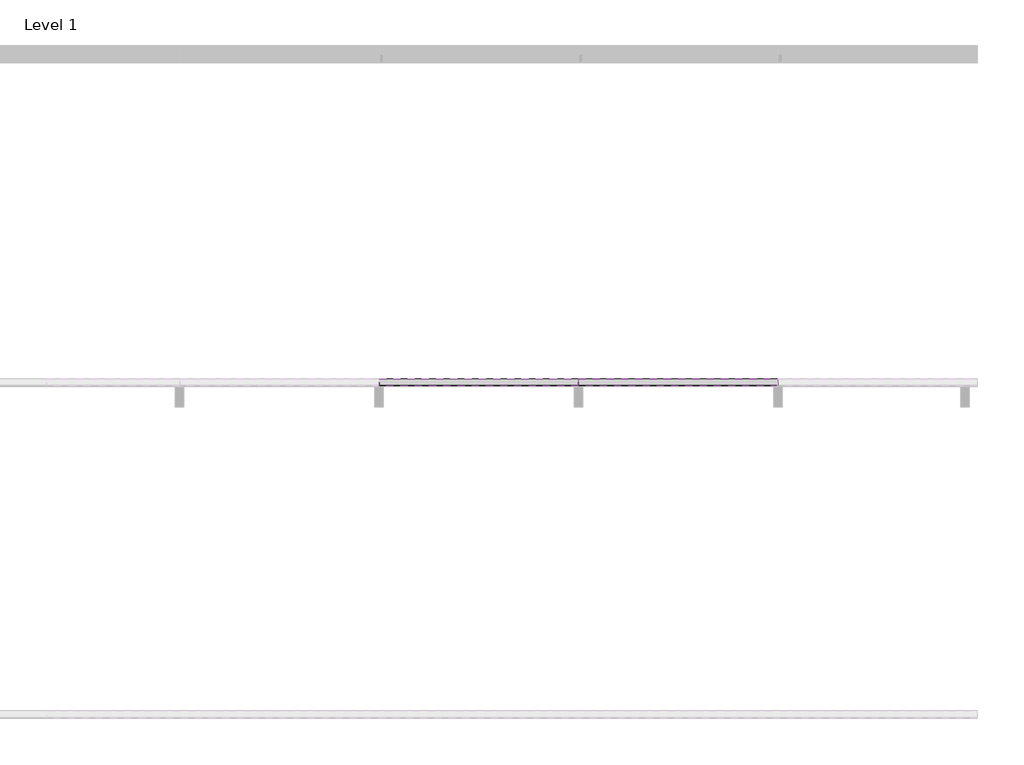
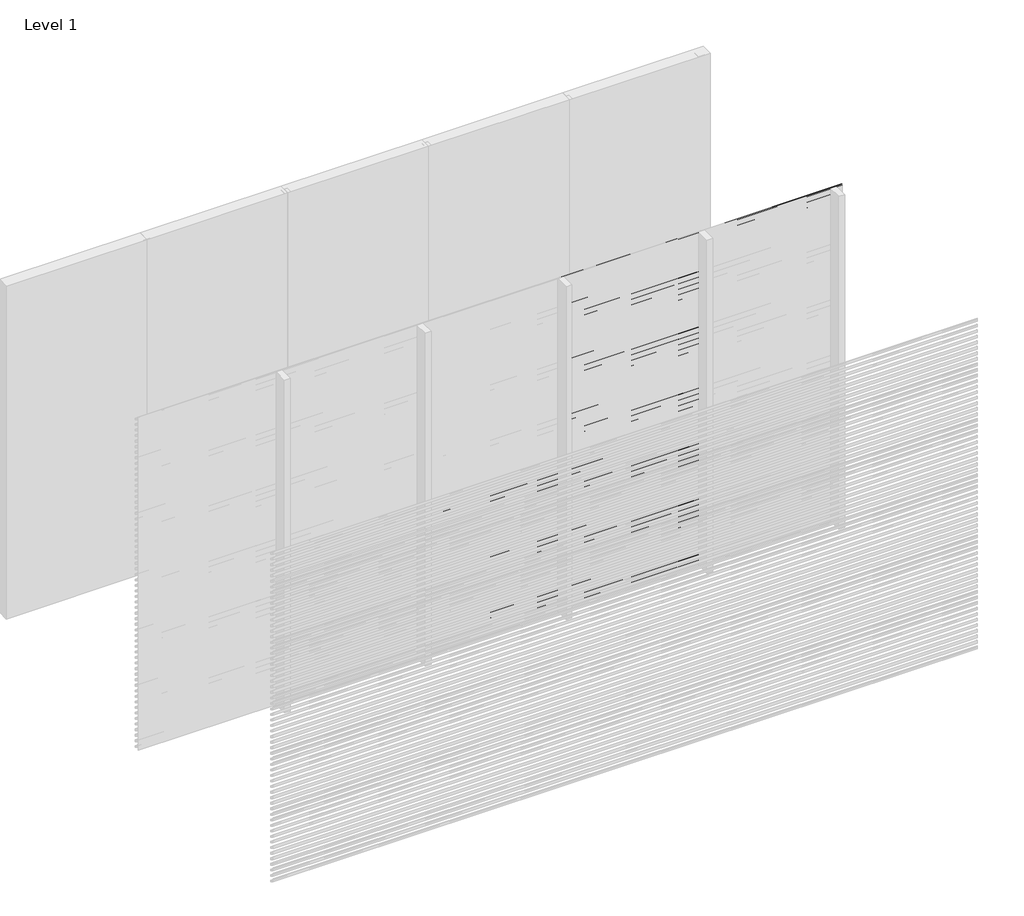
# One storey, part 4 of 16: 92 proxies.
"""IFC4 building model written with IfcOpenShell, lengths in millimetres."""

from ifc_helpers import new_model, si_unit, frame, origin, place, context, project, spatial, polyline, outline, extrude, element, save

model = new_model("IFC4")

# Units and contexts
model_context = context("Model", 3, world=origin())
ifc_project = project(units=[si_unit("LENGTHUNIT", "METRE", prefix="MILLI")], contexts=[model_context])

# Site, building, storey
site = spatial("IfcSite", under=ifc_project)
building = spatial("IfcBuilding", under=site)
storey = spatial("IfcBuildingStorey", under=building, Name="Level 1", Elevation=0.0)

# Proxies
placement = place(None, origin())
element("IfcBuildingElementProxy", 1, Name="Wall Sweeps", at=placement, inside=storey, context=model_context, shape_type="SweptSolid", body=[
    extrude(outline(polyline([(-17995.0, 3000.0), (-17995.0, 2989.6352854), (-17954.0, 2965.0), (-17954.0, 2950.0), (-17997.0, 2975.8370066), (-17997.0, 3000.0), (-17995.0, 3000.0)])), frame((4799.9999998, 0.0, 0.0), z_axis=(1.0, 0.0, 0.0), x_axis=(0.0, 1.0, 0.0)), (0.0, 0.0, 1.0), 1200.0000002),
])
element("IfcBuildingElementProxy", 2, Name="Wall Sweeps", at=placement, inside=storey, context=model_context, shape_type="SweptSolid", body=[
    extrude(outline(polyline([(-17995.0, 2950.0), (-17995.0, 2939.6352854), (-17954.0, 2915.0), (-17954.0, 2900.0), (-17997.0, 2925.8370066), (-17997.0, 2950.0), (-17995.0, 2950.0)])), frame((4799.9999998, 0.0, 0.0), z_axis=(1.0, 0.0, 0.0), x_axis=(0.0, 1.0, 0.0)), (0.0, 0.0, 1.0), 1200.0000002),
])
element("IfcBuildingElementProxy", 3, Name="Wall Sweeps", at=placement, inside=storey, context=model_context, shape_type="SweptSolid", body=[
    extrude(outline(polyline([(-17995.0, 2900.0), (-17995.0, 2889.6352854), (-17954.0, 2865.0), (-17954.0, 2850.0), (-17997.0, 2875.8370066), (-17997.0, 2900.0), (-17995.0, 2900.0)])), frame((4799.9999998, 0.0, 0.0), z_axis=(1.0, 0.0, 0.0), x_axis=(0.0, 1.0, 0.0)), (0.0, 0.0, 1.0), 1200.0000002),
])
element("IfcBuildingElementProxy", 4, Name="Wall Sweeps", at=placement, inside=storey, context=model_context, shape_type="SweptSolid", body=[
    extrude(outline(polyline([(-17995.0, 2850.0), (-17995.0, 2839.6352854), (-17954.0, 2815.0), (-17954.0, 2800.0), (-17997.0, 2825.8370066), (-17997.0, 2850.0), (-17995.0, 2850.0)])), frame((4799.9999998, 0.0, 0.0), z_axis=(1.0, 0.0, 0.0), x_axis=(0.0, 1.0, 0.0)), (0.0, 0.0, 1.0), 1200.0000002),
])
element("IfcBuildingElementProxy", 5, Name="Wall Sweeps", at=placement, inside=storey, context=model_context, shape_type="SweptSolid", body=[
    extrude(outline(polyline([(-17995.0, 3000.0), (-17995.0, 2989.6352854), (-17954.0, 2965.0), (-17954.0, 2950.0), (-17997.0, 2975.8370066), (-17997.0, 3000.0), (-17995.0, 3000.0)])), frame((3599.9999999, 0.0, 0.0), z_axis=(1.0, 0.0, 0.0), x_axis=(0.0, 1.0, 0.0)), (0.0, 0.0, 1.0), 1199.9999999),
])
element("IfcBuildingElementProxy", 6, Name="Wall Sweeps", at=placement, inside=storey, context=model_context, shape_type="SweptSolid", body=[
    extrude(outline(polyline([(-17995.0, 2950.0), (-17995.0, 2939.6352854), (-17954.0, 2915.0), (-17954.0, 2900.0), (-17997.0, 2925.8370066), (-17997.0, 2950.0), (-17995.0, 2950.0)])), frame((3599.9999999, 0.0, 0.0), z_axis=(1.0, 0.0, 0.0), x_axis=(0.0, 1.0, 0.0)), (0.0, 0.0, 1.0), 1199.9999999),
])
element("IfcBuildingElementProxy", 7, Name="Wall Sweeps", at=placement, inside=storey, context=model_context, shape_type="SweptSolid", body=[
    extrude(outline(polyline([(-17995.0, 2900.0), (-17995.0, 2889.6352854), (-17954.0, 2865.0), (-17954.0, 2850.0), (-17997.0, 2875.8370066), (-17997.0, 2900.0), (-17995.0, 2900.0)])), frame((3599.9999999, 0.0, 0.0), z_axis=(1.0, 0.0, 0.0), x_axis=(0.0, 1.0, 0.0)), (0.0, 0.0, 1.0), 1199.9999999),
])
element("IfcBuildingElementProxy", 8, Name="Wall Sweeps", at=placement, inside=storey, context=model_context, shape_type="SweptSolid", body=[
    extrude(outline(polyline([(-17995.0, 2850.0), (-17995.0, 2839.6352854), (-17954.0, 2815.0), (-17954.0, 2800.0), (-17997.0, 2825.8370066), (-17997.0, 2850.0), (-17995.0, 2850.0)])), frame((3599.9999999, 0.0, 0.0), z_axis=(1.0, 0.0, 0.0), x_axis=(0.0, 1.0, 0.0)), (0.0, 0.0, 1.0), 1199.9999999),
])
element("IfcBuildingElementProxy", 9, Name="Wall Sweeps", at=placement, inside=storey, context=model_context, shape_type="SweptSolid", body=[
    extrude(outline(polyline([(-17995.0, 2800.0), (-17995.0, 2789.6352854), (-17954.0, 2765.0), (-17954.0, 2750.0), (-17997.0, 2775.8370066), (-17997.0, 2800.0), (-17995.0, 2800.0)])), frame((3599.9999999, 0.0, 0.0), z_axis=(1.0, 0.0, 0.0), x_axis=(0.0, 1.0, 0.0)), (0.0, 0.0, 1.0), 1199.9999999),
])
element("IfcBuildingElementProxy", 10, Name="Wall Sweeps", at=placement, inside=storey, context=model_context, shape_type="SweptSolid", body=[
    extrude(outline(polyline([(-17995.0, 2750.0), (-17995.0, 2739.6352854), (-17954.0, 2715.0), (-17954.0, 2700.0), (-17997.0, 2725.8370066), (-17997.0, 2750.0), (-17995.0, 2750.0)])), frame((3599.9999999, 0.0, 0.0), z_axis=(1.0, 0.0, 0.0), x_axis=(0.0, 1.0, 0.0)), (0.0, 0.0, 1.0), 1199.9999999),
])
element("IfcBuildingElementProxy", 11, Name="Wall Sweeps", at=placement, inside=storey, context=model_context, shape_type="SweptSolid", body=[
    extrude(outline(polyline([(-17995.0, 2700.0), (-17995.0, 2689.6352854), (-17954.0, 2665.0), (-17954.0, 2650.0), (-17997.0, 2675.8370066), (-17997.0, 2700.0), (-17995.0, 2700.0)])), frame((3599.9999999, 0.0, 0.0), z_axis=(1.0, 0.0, 0.0), x_axis=(0.0, 1.0, 0.0)), (0.0, 0.0, 1.0), 1199.9999999),
])
element("IfcBuildingElementProxy", 12, Name="Wall Sweeps", at=placement, inside=storey, context=model_context, shape_type="SweptSolid", body=[
    extrude(outline(polyline([(-17995.0, 2650.0), (-17995.0, 2639.6352854), (-17954.0, 2615.0), (-17954.0, 2600.0), (-17997.0, 2625.8370066), (-17997.0, 2650.0), (-17995.0, 2650.0)])), frame((3599.9999999, 0.0, 0.0), z_axis=(1.0, 0.0, 0.0), x_axis=(0.0, 1.0, 0.0)), (0.0, 0.0, 1.0), 1199.9999999),
])
element("IfcBuildingElementProxy", 13, Name="Wall Sweeps", at=placement, inside=storey, context=model_context, shape_type="SweptSolid", body=[
    extrude(outline(polyline([(-17995.0, 2600.0), (-17995.0, 2589.6352854), (-17954.0, 2565.0), (-17954.0, 2550.0), (-17997.0, 2575.8370066), (-17997.0, 2600.0), (-17995.0, 2600.0)])), frame((3599.9999999, 0.0, 0.0), z_axis=(1.0, 0.0, 0.0), x_axis=(0.0, 1.0, 0.0)), (0.0, 0.0, 1.0), 1199.9999999),
])
element("IfcBuildingElementProxy", 14, Name="Wall Sweeps", at=placement, inside=storey, context=model_context, shape_type="SweptSolid", body=[
    extrude(outline(polyline([(-17995.0, 2550.0), (-17995.0, 2539.6352854), (-17954.0, 2515.0), (-17954.0, 2500.0), (-17997.0, 2525.8370066), (-17997.0, 2550.0), (-17995.0, 2550.0)])), frame((3599.9999999, 0.0, 0.0), z_axis=(1.0, 0.0, 0.0), x_axis=(0.0, 1.0, 0.0)), (0.0, 0.0, 1.0), 1199.9999999),
])
element("IfcBuildingElementProxy", 15, Name="Wall Sweeps", at=placement, inside=storey, context=model_context, shape_type="SweptSolid", body=[
    extrude(outline(polyline([(-17995.0, 2500.0), (-17995.0, 2489.6352854), (-17954.0, 2465.0), (-17954.0, 2450.0), (-17997.0, 2475.8370066), (-17997.0, 2500.0), (-17995.0, 2500.0)])), frame((3599.9999999, 0.0, 0.0), z_axis=(1.0, 0.0, 0.0), x_axis=(0.0, 1.0, 0.0)), (0.0, 0.0, 1.0), 1199.9999999),
])
element("IfcBuildingElementProxy", 16, Name="Wall Sweeps", at=placement, inside=storey, context=model_context, shape_type="SweptSolid", body=[
    extrude(outline(polyline([(-17995.0, 2450.0), (-17995.0, 2439.6352854), (-17954.0, 2415.0), (-17954.0, 2400.0), (-17997.0, 2425.8370066), (-17997.0, 2450.0), (-17995.0, 2450.0)])), frame((3599.9999999, 0.0, 0.0), z_axis=(1.0, 0.0, 0.0), x_axis=(0.0, 1.0, 0.0)), (0.0, 0.0, 1.0), 1199.9999999),
])
element("IfcBuildingElementProxy", 17, Name="Wall Sweeps", at=placement, inside=storey, context=model_context, shape_type="SweptSolid", body=[
    extrude(outline(polyline([(-17995.0, 2400.0), (-17995.0, 2389.6352854), (-17954.0, 2365.0), (-17954.0, 2350.0), (-17997.0, 2375.8370066), (-17997.0, 2400.0), (-17995.0, 2400.0)])), frame((3599.9999999, 0.0, 0.0), z_axis=(1.0, 0.0, 0.0), x_axis=(0.0, 1.0, 0.0)), (0.0, 0.0, 1.0), 1199.9999999),
])
element("IfcBuildingElementProxy", 18, Name="Wall Sweeps", at=placement, inside=storey, context=model_context, shape_type="SweptSolid", body=[
    extrude(outline(polyline([(-17995.0, 2350.0), (-17995.0, 2339.6352854), (-17954.0, 2315.0), (-17954.0, 2300.0), (-17997.0, 2325.8370066), (-17997.0, 2350.0), (-17995.0, 2350.0)])), frame((3599.9999999, 0.0, 0.0), z_axis=(1.0, 0.0, 0.0), x_axis=(0.0, 1.0, 0.0)), (0.0, 0.0, 1.0), 1199.9999999),
])
element("IfcBuildingElementProxy", 19, Name="Wall Sweeps", at=placement, inside=storey, context=model_context, shape_type="SweptSolid", body=[
    extrude(outline(polyline([(-17995.0, 2300.0), (-17995.0, 2289.6352854), (-17954.0, 2265.0), (-17954.0, 2250.0), (-17997.0, 2275.8370066), (-17997.0, 2300.0), (-17995.0, 2300.0)])), frame((3599.9999999, 0.0, 0.0), z_axis=(1.0, 0.0, 0.0), x_axis=(0.0, 1.0, 0.0)), (0.0, 0.0, 1.0), 1199.9999999),
])
element("IfcBuildingElementProxy", 20, Name="Wall Sweeps", at=placement, inside=storey, context=model_context, shape_type="SweptSolid", body=[
    extrude(outline(polyline([(-17995.0, 2250.0), (-17995.0, 2239.6352854), (-17954.0, 2215.0), (-17954.0, 2200.0), (-17997.0, 2225.8370066), (-17997.0, 2250.0), (-17995.0, 2250.0)])), frame((3599.9999999, 0.0, 0.0), z_axis=(1.0, 0.0, 0.0), x_axis=(0.0, 1.0, 0.0)), (0.0, 0.0, 1.0), 1199.9999999),
])
element("IfcBuildingElementProxy", 21, Name="Wall Sweeps", at=placement, inside=storey, context=model_context, shape_type="SweptSolid", body=[
    extrude(outline(polyline([(-17995.0, 2200.0), (-17995.0, 2189.6352854), (-17954.0, 2165.0), (-17954.0, 2150.0), (-17997.0, 2175.8370066), (-17997.0, 2200.0), (-17995.0, 2200.0)])), frame((3599.9999999, 0.0, 0.0), z_axis=(1.0, 0.0, 0.0), x_axis=(0.0, 1.0, 0.0)), (0.0, 0.0, 1.0), 1199.9999999),
])
element("IfcBuildingElementProxy", 22, Name="Wall Sweeps", at=placement, inside=storey, context=model_context, shape_type="SweptSolid", body=[
    extrude(outline(polyline([(-17995.0, 2150.0), (-17995.0, 2139.6352854), (-17954.0, 2115.0), (-17954.0, 2100.0), (-17997.0, 2125.8370066), (-17997.0, 2150.0), (-17995.0, 2150.0)])), frame((3599.9999999, 0.0, 0.0), z_axis=(1.0, 0.0, 0.0), x_axis=(0.0, 1.0, 0.0)), (0.0, 0.0, 1.0), 1199.9999999),
])
element("IfcBuildingElementProxy", 23, Name="Wall Sweeps", at=placement, inside=storey, context=model_context, shape_type="SweptSolid", body=[
    extrude(outline(polyline([(-17995.0, 2100.0), (-17995.0, 2089.6352854), (-17954.0, 2065.0), (-17954.0, 2050.0), (-17997.0, 2075.8370066), (-17997.0, 2100.0), (-17995.0, 2100.0)])), frame((3599.9999999, 0.0, 0.0), z_axis=(1.0, 0.0, 0.0), x_axis=(0.0, 1.0, 0.0)), (0.0, 0.0, 1.0), 1199.9999999),
])
element("IfcBuildingElementProxy", 24, Name="Wall Sweeps", at=placement, inside=storey, context=model_context, shape_type="SweptSolid", body=[
    extrude(outline(polyline([(-17995.0, 2050.0), (-17995.0, 2039.6352854), (-17954.0, 2015.0), (-17954.0, 2000.0), (-17997.0, 2025.8370066), (-17997.0, 2050.0), (-17995.0, 2050.0)])), frame((3599.9999999, 0.0, 0.0), z_axis=(1.0, 0.0, 0.0), x_axis=(0.0, 1.0, 0.0)), (0.0, 0.0, 1.0), 1199.9999999),
])
element("IfcBuildingElementProxy", 25, Name="Wall Sweeps", at=placement, inside=storey, context=model_context, shape_type="SweptSolid", body=[
    extrude(outline(polyline([(-17995.0, 2000.0), (-17995.0, 1989.6352854), (-17954.0, 1965.0), (-17954.0, 1950.0), (-17997.0, 1975.8370066), (-17997.0, 2000.0), (-17995.0, 2000.0)])), frame((3599.9999999, 0.0, 0.0), z_axis=(1.0, 0.0, 0.0), x_axis=(0.0, 1.0, 0.0)), (0.0, 0.0, 1.0), 1199.9999999),
])
element("IfcBuildingElementProxy", 26, Name="Wall Sweeps", at=placement, inside=storey, context=model_context, shape_type="SweptSolid", body=[
    extrude(outline(polyline([(-17995.0, 1950.0), (-17995.0, 1939.6352854), (-17954.0, 1915.0), (-17954.0, 1900.0), (-17997.0, 1925.8370066), (-17997.0, 1950.0), (-17995.0, 1950.0)])), frame((3599.9999999, 0.0, 0.0), z_axis=(1.0, 0.0, 0.0), x_axis=(0.0, 1.0, 0.0)), (0.0, 0.0, 1.0), 1199.9999999),
])
element("IfcBuildingElementProxy", 27, Name="Wall Sweeps", at=placement, inside=storey, context=model_context, shape_type="SweptSolid", body=[
    extrude(outline(polyline([(-17995.0, 1900.0), (-17995.0, 1889.6352854), (-17954.0, 1865.0), (-17954.0, 1850.0), (-17997.0, 1875.8370066), (-17997.0, 1900.0), (-17995.0, 1900.0)])), frame((3599.9999999, 0.0, 0.0), z_axis=(1.0, 0.0, 0.0), x_axis=(0.0, 1.0, 0.0)), (0.0, 0.0, 1.0), 1199.9999999),
])
element("IfcBuildingElementProxy", 28, Name="Wall Sweeps", at=placement, inside=storey, context=model_context, shape_type="SweptSolid", body=[
    extrude(outline(polyline([(-17995.0, 1850.0), (-17995.0, 1839.6352854), (-17954.0, 1815.0), (-17954.0, 1800.0), (-17997.0, 1825.8370066), (-17997.0, 1850.0), (-17995.0, 1850.0)])), frame((3599.9999999, 0.0, 0.0), z_axis=(1.0, 0.0, 0.0), x_axis=(0.0, 1.0, 0.0)), (0.0, 0.0, 1.0), 1199.9999999),
])
element("IfcBuildingElementProxy", 29, Name="Wall Sweeps", at=placement, inside=storey, context=model_context, shape_type="SweptSolid", body=[
    extrude(outline(polyline([(-17995.0, 1800.0), (-17995.0, 1789.6352854), (-17954.0, 1765.0), (-17954.0, 1750.0), (-17997.0, 1775.8370066), (-17997.0, 1800.0), (-17995.0, 1800.0)])), frame((3599.9999999, 0.0, 0.0), z_axis=(1.0, 0.0, 0.0), x_axis=(0.0, 1.0, 0.0)), (0.0, 0.0, 1.0), 1199.9999999),
])
element("IfcBuildingElementProxy", 30, Name="Wall Sweeps", at=placement, inside=storey, context=model_context, shape_type="SweptSolid", body=[
    extrude(outline(polyline([(-17995.0, 1750.0), (-17995.0, 1739.6352854), (-17954.0, 1715.0), (-17954.0, 1700.0), (-17997.0, 1725.8370066), (-17997.0, 1750.0), (-17995.0, 1750.0)])), frame((3599.9999999, 0.0, 0.0), z_axis=(1.0, 0.0, 0.0), x_axis=(0.0, 1.0, 0.0)), (0.0, 0.0, 1.0), 1199.9999999),
])
element("IfcBuildingElementProxy", 31, Name="Wall Sweeps", at=placement, inside=storey, context=model_context, shape_type="SweptSolid", body=[
    extrude(outline(polyline([(-17995.0, 1700.0), (-17995.0, 1689.6352854), (-17954.0, 1665.0), (-17954.0, 1650.0), (-17997.0, 1675.8370066), (-17997.0, 1700.0), (-17995.0, 1700.0)])), frame((3599.9999999, 0.0, 0.0), z_axis=(1.0, 0.0, 0.0), x_axis=(0.0, 1.0, 0.0)), (0.0, 0.0, 1.0), 1199.9999999),
])
element("IfcBuildingElementProxy", 32, Name="Wall Sweeps", at=placement, inside=storey, context=model_context, shape_type="SweptSolid", body=[
    extrude(outline(polyline([(-17995.0, 1650.0), (-17995.0, 1639.6352854), (-17954.0, 1615.0), (-17954.0, 1600.0), (-17997.0, 1625.8370066), (-17997.0, 1650.0), (-17995.0, 1650.0)])), frame((3599.9999999, 0.0, 0.0), z_axis=(1.0, 0.0, 0.0), x_axis=(0.0, 1.0, 0.0)), (0.0, 0.0, 1.0), 1199.9999999),
])
element("IfcBuildingElementProxy", 33, Name="Wall Sweeps", at=placement, inside=storey, context=model_context, shape_type="SweptSolid", body=[
    extrude(outline(polyline([(-17995.0, 1600.0), (-17995.0, 1589.6352854), (-17954.0, 1565.0), (-17954.0, 1550.0), (-17997.0, 1575.8370066), (-17997.0, 1600.0), (-17995.0, 1600.0)])), frame((3599.9999999, 0.0, 0.0), z_axis=(1.0, 0.0, 0.0), x_axis=(0.0, 1.0, 0.0)), (0.0, 0.0, 1.0), 1199.9999999),
])
element("IfcBuildingElementProxy", 34, Name="Wall Sweeps", at=placement, inside=storey, context=model_context, shape_type="SweptSolid", body=[
    extrude(outline(polyline([(-17995.0, 1550.0), (-17995.0, 1539.6352854), (-17954.0, 1515.0), (-17954.0, 1500.0), (-17997.0, 1525.8370066), (-17997.0, 1550.0), (-17995.0, 1550.0)])), frame((3599.9999999, 0.0, 0.0), z_axis=(1.0, 0.0, 0.0), x_axis=(0.0, 1.0, 0.0)), (0.0, 0.0, 1.0), 1199.9999999),
])
element("IfcBuildingElementProxy", 35, Name="Wall Sweeps", at=placement, inside=storey, context=model_context, shape_type="SweptSolid", body=[
    extrude(outline(polyline([(-17995.0, 1500.0), (-17995.0, 1489.6352854), (-17954.0, 1465.0), (-17954.0, 1450.0), (-17997.0, 1475.8370066), (-17997.0, 1500.0), (-17995.0, 1500.0)])), frame((3599.9999999, 0.0, 0.0), z_axis=(1.0, 0.0, 0.0), x_axis=(0.0, 1.0, 0.0)), (0.0, 0.0, 1.0), 1199.9999999),
])
element("IfcBuildingElementProxy", 36, Name="Wall Sweeps", at=placement, inside=storey, context=model_context, shape_type="SweptSolid", body=[
    extrude(outline(polyline([(-17995.0, 1450.0), (-17995.0, 1439.6352854), (-17954.0, 1415.0), (-17954.0, 1400.0), (-17997.0, 1425.8370066), (-17997.0, 1450.0), (-17995.0, 1450.0)])), frame((3599.9999999, 0.0, 0.0), z_axis=(1.0, 0.0, 0.0), x_axis=(0.0, 1.0, 0.0)), (0.0, 0.0, 1.0), 1199.9999999),
])
element("IfcBuildingElementProxy", 37, Name="Wall Sweeps", at=placement, inside=storey, context=model_context, shape_type="SweptSolid", body=[
    extrude(outline(polyline([(-17995.0, 1400.0), (-17995.0, 1389.6352854), (-17954.0, 1365.0), (-17954.0, 1350.0), (-17997.0, 1375.8370066), (-17997.0, 1400.0), (-17995.0, 1400.0)])), frame((3599.9999999, 0.0, 0.0), z_axis=(1.0, 0.0, 0.0), x_axis=(0.0, 1.0, 0.0)), (0.0, 0.0, 1.0), 1199.9999999),
])
element("IfcBuildingElementProxy", 38, Name="Wall Sweeps", at=placement, inside=storey, context=model_context, shape_type="SweptSolid", body=[
    extrude(outline(polyline([(-17995.0, 1350.0), (-17995.0, 1339.6352854), (-17954.0, 1315.0), (-17954.0, 1300.0), (-17997.0, 1325.8370066), (-17997.0, 1350.0), (-17995.0, 1350.0)])), frame((3599.9999999, 0.0, 0.0), z_axis=(1.0, 0.0, 0.0), x_axis=(0.0, 1.0, 0.0)), (0.0, 0.0, 1.0), 1199.9999999),
])
element("IfcBuildingElementProxy", 39, Name="Wall Sweeps", at=placement, inside=storey, context=model_context, shape_type="SweptSolid", body=[
    extrude(outline(polyline([(-17995.0, 1300.0), (-17995.0, 1289.6352854), (-17954.0, 1265.0), (-17954.0, 1250.0), (-17997.0, 1275.8370066), (-17997.0, 1300.0), (-17995.0, 1300.0)])), frame((3599.9999999, 0.0, 0.0), z_axis=(1.0, 0.0, 0.0), x_axis=(0.0, 1.0, 0.0)), (0.0, 0.0, 1.0), 1199.9999999),
])
element("IfcBuildingElementProxy", 40, Name="Wall Sweeps", at=placement, inside=storey, context=model_context, shape_type="SweptSolid", body=[
    extrude(outline(polyline([(-17995.0, 1250.0), (-17995.0, 1239.6352854), (-17954.0, 1215.0), (-17954.0, 1200.0), (-17997.0, 1225.8370066), (-17997.0, 1250.0), (-17995.0, 1250.0)])), frame((3599.9999999, 0.0, 0.0), z_axis=(1.0, 0.0, 0.0), x_axis=(0.0, 1.0, 0.0)), (0.0, 0.0, 1.0), 1199.9999999),
])
element("IfcBuildingElementProxy", 41, Name="Wall Sweeps", at=placement, inside=storey, context=model_context, shape_type="SweptSolid", body=[
    extrude(outline(polyline([(-17995.0, 1200.0), (-17995.0, 1189.6352854), (-17954.0, 1165.0), (-17954.0, 1150.0), (-17997.0, 1175.8370066), (-17997.0, 1200.0), (-17995.0, 1200.0)])), frame((3599.9999999, 0.0, 0.0), z_axis=(1.0, 0.0, 0.0), x_axis=(0.0, 1.0, 0.0)), (0.0, 0.0, 1.0), 1199.9999999),
])
element("IfcBuildingElementProxy", 42, Name="Wall Sweeps", at=placement, inside=storey, context=model_context, shape_type="SweptSolid", body=[
    extrude(outline(polyline([(-17995.0, 1150.0), (-17995.0, 1139.6352854), (-17954.0, 1115.0), (-17954.0, 1100.0), (-17997.0, 1125.8370066), (-17997.0, 1150.0), (-17995.0, 1150.0)])), frame((3599.9999999, 0.0, 0.0), z_axis=(1.0, 0.0, 0.0), x_axis=(0.0, 1.0, 0.0)), (0.0, 0.0, 1.0), 1199.9999999),
])
element("IfcBuildingElementProxy", 43, Name="Wall Sweeps", at=placement, inside=storey, context=model_context, shape_type="SweptSolid", body=[
    extrude(outline(polyline([(-17995.0, 1100.0), (-17995.0, 1089.6352854), (-17954.0, 1065.0), (-17954.0, 1050.0), (-17997.0, 1075.8370066), (-17997.0, 1100.0), (-17995.0, 1100.0)])), frame((3599.9999999, 0.0, 0.0), z_axis=(1.0, 0.0, 0.0), x_axis=(0.0, 1.0, 0.0)), (0.0, 0.0, 1.0), 1199.9999999),
])
element("IfcBuildingElementProxy", 44, Name="Wall Sweeps", at=placement, inside=storey, context=model_context, shape_type="SweptSolid", body=[
    extrude(outline(polyline([(-17995.0, 1050.0), (-17995.0, 1039.6352854), (-17954.0, 1015.0), (-17954.0, 1000.0), (-17997.0, 1025.8370066), (-17997.0, 1050.0), (-17995.0, 1050.0)])), frame((3599.9999999, 0.0, 0.0), z_axis=(1.0, 0.0, 0.0), x_axis=(0.0, 1.0, 0.0)), (0.0, 0.0, 1.0), 1199.9999999),
])
element("IfcBuildingElementProxy", 45, Name="Wall Sweeps", at=placement, inside=storey, context=model_context, shape_type="SweptSolid", body=[
    extrude(outline(polyline([(-17995.0, 1000.0), (-17995.0, 989.6352854), (-17954.0, 965.0), (-17954.0, 950.0), (-17997.0, 975.8370066), (-17997.0, 1000.0), (-17995.0, 1000.0)])), frame((3599.9999999, 0.0, 0.0), z_axis=(1.0, 0.0, 0.0), x_axis=(0.0, 1.0, 0.0)), (0.0, 0.0, 1.0), 1199.9999999),
])
element("IfcBuildingElementProxy", 46, Name="Wall Sweeps", at=placement, inside=storey, context=model_context, shape_type="SweptSolid", body=[
    extrude(outline(polyline([(-17995.0, 950.0), (-17995.0, 939.6352854), (-17954.0, 915.0), (-17954.0, 900.0), (-17997.0, 925.8370066), (-17997.0, 950.0), (-17995.0, 950.0)])), frame((3599.9999999, 0.0, 0.0), z_axis=(1.0, 0.0, 0.0), x_axis=(0.0, 1.0, 0.0)), (0.0, 0.0, 1.0), 1199.9999999),
])
element("IfcBuildingElementProxy", 47, Name="Wall Sweeps", at=placement, inside=storey, context=model_context, shape_type="SweptSolid", body=[
    extrude(outline(polyline([(-17995.0, 900.0), (-17995.0, 889.6352854), (-17954.0, 865.0), (-17954.0, 850.0), (-17997.0, 875.8370066), (-17997.0, 900.0), (-17995.0, 900.0)])), frame((3599.9999999, 0.0, 0.0), z_axis=(1.0, 0.0, 0.0), x_axis=(0.0, 1.0, 0.0)), (0.0, 0.0, 1.0), 1199.9999999),
])
element("IfcBuildingElementProxy", 48, Name="Wall Sweeps", at=placement, inside=storey, context=model_context, shape_type="SweptSolid", body=[
    extrude(outline(polyline([(-17995.0, 850.0), (-17995.0, 839.6352854), (-17954.0, 815.0), (-17954.0, 800.0), (-17997.0, 825.8370066), (-17997.0, 850.0), (-17995.0, 850.0)])), frame((3599.9999999, 0.0, 0.0), z_axis=(1.0, 0.0, 0.0), x_axis=(0.0, 1.0, 0.0)), (0.0, 0.0, 1.0), 1199.9999999),
])
element("IfcBuildingElementProxy", 49, Name="Wall Sweeps", at=placement, inside=storey, context=model_context, shape_type="SweptSolid", body=[
    extrude(outline(polyline([(-17995.0, 800.0), (-17995.0, 789.6352854), (-17954.0, 765.0), (-17954.0, 750.0), (-17997.0, 775.8370066), (-17997.0, 800.0), (-17995.0, 800.0)])), frame((3599.9999999, 0.0, 0.0), z_axis=(1.0, 0.0, 0.0), x_axis=(0.0, 1.0, 0.0)), (0.0, 0.0, 1.0), 1199.9999999),
])
element("IfcBuildingElementProxy", 50, Name="Wall Sweeps", at=placement, inside=storey, context=model_context, shape_type="SweptSolid", body=[
    extrude(outline(polyline([(-17995.0, 750.0), (-17995.0, 739.6352854), (-17954.0, 715.0), (-17954.0, 700.0), (-17997.0, 725.8370066), (-17997.0, 750.0), (-17995.0, 750.0)])), frame((3599.9999999, 0.0, 0.0), z_axis=(1.0, 0.0, 0.0), x_axis=(0.0, 1.0, 0.0)), (0.0, 0.0, 1.0), 1199.9999999),
])
element("IfcBuildingElementProxy", 51, Name="Wall Sweeps", at=placement, inside=storey, context=model_context, shape_type="SweptSolid", body=[
    extrude(outline(polyline([(-17995.0, 700.0), (-17995.0, 689.6352854), (-17954.0, 665.0), (-17954.0, 650.0), (-17997.0, 675.8370066), (-17997.0, 700.0), (-17995.0, 700.0)])), frame((3599.9999999, 0.0, 0.0), z_axis=(1.0, 0.0, 0.0), x_axis=(0.0, 1.0, 0.0)), (0.0, 0.0, 1.0), 1199.9999999),
])
element("IfcBuildingElementProxy", 52, Name="Wall Sweeps", at=placement, inside=storey, context=model_context, shape_type="SweptSolid", body=[
    extrude(outline(polyline([(-17995.0, 650.0), (-17995.0, 639.6352854), (-17954.0, 615.0), (-17954.0, 600.0), (-17997.0, 625.8370066), (-17997.0, 650.0), (-17995.0, 650.0)])), frame((3599.9999999, 0.0, 0.0), z_axis=(1.0, 0.0, 0.0), x_axis=(0.0, 1.0, 0.0)), (0.0, 0.0, 1.0), 1199.9999999),
])
element("IfcBuildingElementProxy", 53, Name="Wall Sweeps", at=placement, inside=storey, context=model_context, shape_type="SweptSolid", body=[
    extrude(outline(polyline([(-17995.0, 600.0), (-17995.0, 589.6352854), (-17954.0, 565.0), (-17954.0, 550.0), (-17997.0, 575.8370066), (-17997.0, 600.0), (-17995.0, 600.0)])), frame((3599.9999999, 0.0, 0.0), z_axis=(1.0, 0.0, 0.0), x_axis=(0.0, 1.0, 0.0)), (0.0, 0.0, 1.0), 1199.9999999),
])
element("IfcBuildingElementProxy", 54, Name="Wall Sweeps", at=placement, inside=storey, context=model_context, shape_type="SweptSolid", body=[
    extrude(outline(polyline([(-17995.0, 550.0), (-17995.0, 539.6352854), (-17954.0, 515.0), (-17954.0, 500.0), (-17997.0, 525.8370066), (-17997.0, 550.0), (-17995.0, 550.0)])), frame((3599.9999999, 0.0, 0.0), z_axis=(1.0, 0.0, 0.0), x_axis=(0.0, 1.0, 0.0)), (0.0, 0.0, 1.0), 1199.9999999),
])
element("IfcBuildingElementProxy", 55, Name="Wall Sweeps", at=placement, inside=storey, context=model_context, shape_type="SweptSolid", body=[
    extrude(outline(polyline([(-17995.0, 500.0), (-17995.0, 489.6352854), (-17954.0, 465.0), (-17954.0, 450.0), (-17997.0, 475.8370066), (-17997.0, 500.0), (-17995.0, 500.0)])), frame((3599.9999999, 0.0, 0.0), z_axis=(1.0, 0.0, 0.0), x_axis=(0.0, 1.0, 0.0)), (0.0, 0.0, 1.0), 1199.9999999),
])
element("IfcBuildingElementProxy", 56, Name="Wall Sweeps", at=placement, inside=storey, context=model_context, shape_type="SweptSolid", body=[
    extrude(outline(polyline([(-17995.0, 450.0), (-17995.0, 439.6352854), (-17954.0, 415.0), (-17954.0, 400.0), (-17997.0, 425.8370066), (-17997.0, 450.0), (-17995.0, 450.0)])), frame((3599.9999999, 0.0, 0.0), z_axis=(1.0, 0.0, 0.0), x_axis=(0.0, 1.0, 0.0)), (0.0, 0.0, 1.0), 1199.9999999),
])
element("IfcBuildingElementProxy", 57, Name="Wall Sweeps", at=placement, inside=storey, context=model_context, shape_type="SweptSolid", body=[
    extrude(outline(polyline([(-17995.0, 400.0), (-17995.0, 389.6352854), (-17954.0, 365.0), (-17954.0, 350.0), (-17997.0, 375.8370066), (-17997.0, 400.0), (-17995.0, 400.0)])), frame((3599.9999999, 0.0, 0.0), z_axis=(1.0, 0.0, 0.0), x_axis=(0.0, 1.0, 0.0)), (0.0, 0.0, 1.0), 1199.9999999),
])
element("IfcBuildingElementProxy", 58, Name="Wall Sweeps", at=placement, inside=storey, context=model_context, shape_type="SweptSolid", body=[
    extrude(outline(polyline([(-17995.0, 350.0), (-17995.0, 339.6352854), (-17954.0, 315.0), (-17954.0, 300.0), (-17997.0, 325.8370066), (-17997.0, 350.0), (-17995.0, 350.0)])), frame((3599.9999999, 0.0, 0.0), z_axis=(1.0, 0.0, 0.0), x_axis=(0.0, 1.0, 0.0)), (0.0, 0.0, 1.0), 1199.9999999),
])
element("IfcBuildingElementProxy", 59, Name="Wall Sweeps", at=placement, inside=storey, context=model_context, shape_type="SweptSolid", body=[
    extrude(outline(polyline([(-17995.0, 300.0), (-17995.0, 289.6352854), (-17954.0, 265.0), (-17954.0, 250.0), (-17997.0, 275.8370066), (-17997.0, 300.0), (-17995.0, 300.0)])), frame((3599.9999999, 0.0, 0.0), z_axis=(1.0, 0.0, 0.0), x_axis=(0.0, 1.0, 0.0)), (0.0, 0.0, 1.0), 1199.9999999),
])
element("IfcBuildingElementProxy", 60, Name="Wall Sweeps", at=placement, inside=storey, context=model_context, shape_type="SweptSolid", body=[
    extrude(outline(polyline([(-17995.0, 250.0), (-17995.0, 239.6352854), (-17954.0, 215.0), (-17954.0, 200.0), (-17997.0, 225.8370066), (-17997.0, 250.0), (-17995.0, 250.0)])), frame((3599.9999999, 0.0, 0.0), z_axis=(1.0, 0.0, 0.0), x_axis=(0.0, 1.0, 0.0)), (0.0, 0.0, 1.0), 1199.9999999),
])
element("IfcBuildingElementProxy", 61, Name="Wall Sweeps", at=placement, inside=storey, context=model_context, shape_type="SweptSolid", body=[
    extrude(outline(polyline([(-17995.0, 200.0), (-17995.0, 189.6352854), (-17954.0, 165.0), (-17954.0, 150.0), (-17997.0, 175.8370066), (-17997.0, 200.0), (-17995.0, 200.0)])), frame((3599.9999999, 0.0, 0.0), z_axis=(1.0, 0.0, 0.0), x_axis=(0.0, 1.0, 0.0)), (0.0, 0.0, 1.0), 1199.9999999),
])
element("IfcBuildingElementProxy", 62, Name="Wall Sweeps", at=placement, inside=storey, context=model_context, shape_type="SweptSolid", body=[
    extrude(outline(polyline([(-17995.0, 150.0), (-17995.0, 139.6352854), (-17954.0, 115.0), (-17954.0, 100.0), (-17997.0, 125.8370066), (-17997.0, 150.0), (-17995.0, 150.0)])), frame((3599.9999999, 0.0, 0.0), z_axis=(1.0, 0.0, 0.0), x_axis=(0.0, 1.0, 0.0)), (0.0, 0.0, 1.0), 1199.9999999),
])
element("IfcBuildingElementProxy", 63, Name="Wall Sweeps", at=placement, inside=storey, context=model_context, shape_type="SweptSolid", body=[
    extrude(outline(polyline([(-17995.0, 100.0), (-17995.0, 89.6352854), (-17954.0, 65.0), (-17954.0, 50.0), (-17997.0, 75.8370066), (-17997.0, 100.0), (-17995.0, 100.0)])), frame((3599.9999999, 0.0, 0.0), z_axis=(1.0, 0.0, 0.0), x_axis=(0.0, 1.0, 0.0)), (0.0, 0.0, 1.0), 1199.9999999),
])
element("IfcBuildingElementProxy", 64, Name="Wall Sweeps", at=placement, inside=storey, context=model_context, shape_type="SweptSolid", body=[
    extrude(outline(polyline([(-17995.0, 50.0), (-17995.0, 39.6352854), (-17954.0, 15.0), (-17954.0, 0.0), (-17997.0, 25.8370066), (-17997.0, 50.0), (-17995.0, 50.0)])), frame((3599.9999999, 0.0, 0.0), z_axis=(1.0, 0.0, 0.0), x_axis=(0.0, 1.0, 0.0)), (0.0, 0.0, 1.0), 1199.9999999),
])
element("IfcBuildingElementProxy", 65, Name="Wall Sweeps", at=placement, inside=storey, context=model_context, shape_type="SweptSolid", body=[
    extrude(outline(polyline([(-17995.0, 1400.0), (-17995.0, 1389.6352854), (-17954.0, 1365.0), (-17954.0, 1350.0), (-17997.0, 1375.8370066), (-17997.0, 1400.0), (-17995.0, 1400.0)])), frame((2400.0000001, 0.0, 0.0), z_axis=(1.0, 0.0, 0.0), x_axis=(0.0, 1.0, 0.0)), (0.0, 0.0, 1.0), 1199.9999999),
])
element("IfcBuildingElementProxy", 66, Name="Wall Sweeps", at=placement, inside=storey, context=model_context, shape_type="SweptSolid", body=[
    extrude(outline(polyline([(-17995.0, 1350.0), (-17995.0, 1339.6352854), (-17954.0, 1315.0), (-17954.0, 1300.0), (-17997.0, 1325.8370066), (-17997.0, 1350.0), (-17995.0, 1350.0)])), frame((2400.0000001, 0.0, 0.0), z_axis=(1.0, 0.0, 0.0), x_axis=(0.0, 1.0, 0.0)), (0.0, 0.0, 1.0), 1199.9999999),
])
element("IfcBuildingElementProxy", 67, Name="Wall Sweeps", at=placement, inside=storey, context=model_context, shape_type="SweptSolid", body=[
    extrude(outline(polyline([(-17995.0, 1300.0), (-17995.0, 1289.6352854), (-17954.0, 1265.0), (-17954.0, 1250.0), (-17997.0, 1275.8370066), (-17997.0, 1300.0), (-17995.0, 1300.0)])), frame((2400.0000001, 0.0, 0.0), z_axis=(1.0, 0.0, 0.0), x_axis=(0.0, 1.0, 0.0)), (0.0, 0.0, 1.0), 1199.9999999),
])
element("IfcBuildingElementProxy", 68, Name="Wall Sweeps", at=placement, inside=storey, context=model_context, shape_type="SweptSolid", body=[
    extrude(outline(polyline([(-17995.0, 1250.0), (-17995.0, 1239.6352854), (-17954.0, 1215.0), (-17954.0, 1200.0), (-17997.0, 1225.8370066), (-17997.0, 1250.0), (-17995.0, 1250.0)])), frame((2400.0000001, 0.0, 0.0), z_axis=(1.0, 0.0, 0.0), x_axis=(0.0, 1.0, 0.0)), (0.0, 0.0, 1.0), 1199.9999999),
])
element("IfcBuildingElementProxy", 69, Name="Wall Sweeps", at=placement, inside=storey, context=model_context, shape_type="SweptSolid", body=[
    extrude(outline(polyline([(-17995.0, 1200.0), (-17995.0, 1189.6352854), (-17954.0, 1165.0), (-17954.0, 1150.0), (-17997.0, 1175.8370066), (-17997.0, 1200.0), (-17995.0, 1200.0)])), frame((2400.0000001, 0.0, 0.0), z_axis=(1.0, 0.0, 0.0), x_axis=(0.0, 1.0, 0.0)), (0.0, 0.0, 1.0), 1199.9999999),
])
element("IfcBuildingElementProxy", 70, Name="Wall Sweeps", at=placement, inside=storey, context=model_context, shape_type="SweptSolid", body=[
    extrude(outline(polyline([(-17995.0, 1150.0), (-17995.0, 1139.6352854), (-17954.0, 1115.0), (-17954.0, 1100.0), (-17997.0, 1125.8370066), (-17997.0, 1150.0), (-17995.0, 1150.0)])), frame((2400.0000001, 0.0, 0.0), z_axis=(1.0, 0.0, 0.0), x_axis=(0.0, 1.0, 0.0)), (0.0, 0.0, 1.0), 1199.9999999),
])
element("IfcBuildingElementProxy", 71, Name="Wall Sweeps", at=placement, inside=storey, context=model_context, shape_type="SweptSolid", body=[
    extrude(outline(polyline([(-17995.0, 1100.0), (-17995.0, 1089.6352854), (-17954.0, 1065.0), (-17954.0, 1050.0), (-17997.0, 1075.8370066), (-17997.0, 1100.0), (-17995.0, 1100.0)])), frame((2400.0000001, 0.0, 0.0), z_axis=(1.0, 0.0, 0.0), x_axis=(0.0, 1.0, 0.0)), (0.0, 0.0, 1.0), 1199.9999999),
])
element("IfcBuildingElementProxy", 72, Name="Wall Sweeps", at=placement, inside=storey, context=model_context, shape_type="SweptSolid", body=[
    extrude(outline(polyline([(-17995.0, 1050.0), (-17995.0, 1039.6352854), (-17954.0, 1015.0), (-17954.0, 1000.0), (-17997.0, 1025.8370066), (-17997.0, 1050.0), (-17995.0, 1050.0)])), frame((2400.0000001, 0.0, 0.0), z_axis=(1.0, 0.0, 0.0), x_axis=(0.0, 1.0, 0.0)), (0.0, 0.0, 1.0), 1199.9999999),
])
element("IfcBuildingElementProxy", 73, Name="Wall Sweeps", at=placement, inside=storey, context=model_context, shape_type="SweptSolid", body=[
    extrude(outline(polyline([(-17995.0, 1000.0), (-17995.0, 989.6352854), (-17954.0, 965.0), (-17954.0, 950.0), (-17997.0, 975.8370066), (-17997.0, 1000.0), (-17995.0, 1000.0)])), frame((2400.0000001, 0.0, 0.0), z_axis=(1.0, 0.0, 0.0), x_axis=(0.0, 1.0, 0.0)), (0.0, 0.0, 1.0), 1199.9999999),
])
element("IfcBuildingElementProxy", 74, Name="Wall Sweeps", at=placement, inside=storey, context=model_context, shape_type="SweptSolid", body=[
    extrude(outline(polyline([(-17995.0, 950.0), (-17995.0, 939.6352854), (-17954.0, 915.0), (-17954.0, 900.0), (-17997.0, 925.8370066), (-17997.0, 950.0), (-17995.0, 950.0)])), frame((2400.0000001, 0.0, 0.0), z_axis=(1.0, 0.0, 0.0), x_axis=(0.0, 1.0, 0.0)), (0.0, 0.0, 1.0), 1199.9999999),
])
element("IfcBuildingElementProxy", 75, Name="Wall Sweeps", at=placement, inside=storey, context=model_context, shape_type="SweptSolid", body=[
    extrude(outline(polyline([(-17995.0, 900.0), (-17995.0, 889.6352854), (-17954.0, 865.0), (-17954.0, 850.0), (-17997.0, 875.8370066), (-17997.0, 900.0), (-17995.0, 900.0)])), frame((2400.0000001, 0.0, 0.0), z_axis=(1.0, 0.0, 0.0), x_axis=(0.0, 1.0, 0.0)), (0.0, 0.0, 1.0), 1199.9999999),
])
element("IfcBuildingElementProxy", 76, Name="Wall Sweeps", at=placement, inside=storey, context=model_context, shape_type="SweptSolid", body=[
    extrude(outline(polyline([(-17995.0, 850.0), (-17995.0, 839.6352854), (-17954.0, 815.0), (-17954.0, 800.0), (-17997.0, 825.8370066), (-17997.0, 850.0), (-17995.0, 850.0)])), frame((2400.0000001, 0.0, 0.0), z_axis=(1.0, 0.0, 0.0), x_axis=(0.0, 1.0, 0.0)), (0.0, 0.0, 1.0), 1199.9999999),
])
element("IfcBuildingElementProxy", 77, Name="Wall Sweeps", at=placement, inside=storey, context=model_context, shape_type="SweptSolid", body=[
    extrude(outline(polyline([(-17995.0, 800.0), (-17995.0, 789.6352854), (-17954.0, 765.0), (-17954.0, 750.0), (-17997.0, 775.8370066), (-17997.0, 800.0), (-17995.0, 800.0)])), frame((2400.0000001, 0.0, 0.0), z_axis=(1.0, 0.0, 0.0), x_axis=(0.0, 1.0, 0.0)), (0.0, 0.0, 1.0), 1199.9999999),
])
element("IfcBuildingElementProxy", 78, Name="Wall Sweeps", at=placement, inside=storey, context=model_context, shape_type="SweptSolid", body=[
    extrude(outline(polyline([(-17995.0, 750.0), (-17995.0, 739.6352854), (-17954.0, 715.0), (-17954.0, 700.0), (-17997.0, 725.8370066), (-17997.0, 750.0), (-17995.0, 750.0)])), frame((2400.0000001, 0.0, 0.0), z_axis=(1.0, 0.0, 0.0), x_axis=(0.0, 1.0, 0.0)), (0.0, 0.0, 1.0), 1199.9999999),
])
element("IfcBuildingElementProxy", 79, Name="Wall Sweeps", at=placement, inside=storey, context=model_context, shape_type="SweptSolid", body=[
    extrude(outline(polyline([(-17995.0, 700.0), (-17995.0, 689.6352854), (-17954.0, 665.0), (-17954.0, 650.0), (-17997.0, 675.8370066), (-17997.0, 700.0), (-17995.0, 700.0)])), frame((2400.0000001, 0.0, 0.0), z_axis=(1.0, 0.0, 0.0), x_axis=(0.0, 1.0, 0.0)), (0.0, 0.0, 1.0), 1199.9999999),
])
element("IfcBuildingElementProxy", 80, Name="Wall Sweeps", at=placement, inside=storey, context=model_context, shape_type="SweptSolid", body=[
    extrude(outline(polyline([(-17995.0, 650.0), (-17995.0, 639.6352854), (-17954.0, 615.0), (-17954.0, 600.0), (-17997.0, 625.8370066), (-17997.0, 650.0), (-17995.0, 650.0)])), frame((2400.0000001, 0.0, 0.0), z_axis=(1.0, 0.0, 0.0), x_axis=(0.0, 1.0, 0.0)), (0.0, 0.0, 1.0), 1199.9999999),
])
element("IfcBuildingElementProxy", 81, Name="Wall Sweeps", at=placement, inside=storey, context=model_context, shape_type="SweptSolid", body=[
    extrude(outline(polyline([(-17995.0, 600.0), (-17995.0, 589.6352854), (-17954.0, 565.0), (-17954.0, 550.0), (-17997.0, 575.8370066), (-17997.0, 600.0), (-17995.0, 600.0)])), frame((2400.0000001, 0.0, 0.0), z_axis=(1.0, 0.0, 0.0), x_axis=(0.0, 1.0, 0.0)), (0.0, 0.0, 1.0), 1199.9999999),
])
element("IfcBuildingElementProxy", 82, Name="Wall Sweeps", at=placement, inside=storey, context=model_context, shape_type="SweptSolid", body=[
    extrude(outline(polyline([(-17995.0, 550.0), (-17995.0, 539.6352854), (-17954.0, 515.0), (-17954.0, 500.0), (-17997.0, 525.8370066), (-17997.0, 550.0), (-17995.0, 550.0)])), frame((2400.0000001, 0.0, 0.0), z_axis=(1.0, 0.0, 0.0), x_axis=(0.0, 1.0, 0.0)), (0.0, 0.0, 1.0), 1199.9999999),
])
element("IfcBuildingElementProxy", 83, Name="Wall Sweeps", at=placement, inside=storey, context=model_context, shape_type="SweptSolid", body=[
    extrude(outline(polyline([(-17995.0, 500.0), (-17995.0, 489.6352854), (-17954.0, 465.0), (-17954.0, 450.0), (-17997.0, 475.8370066), (-17997.0, 500.0), (-17995.0, 500.0)])), frame((2400.0000001, 0.0, 0.0), z_axis=(1.0, 0.0, 0.0), x_axis=(0.0, 1.0, 0.0)), (0.0, 0.0, 1.0), 1199.9999999),
])
element("IfcBuildingElementProxy", 84, Name="Wall Sweeps", at=placement, inside=storey, context=model_context, shape_type="SweptSolid", body=[
    extrude(outline(polyline([(-17995.0, 450.0), (-17995.0, 439.6352854), (-17954.0, 415.0), (-17954.0, 400.0), (-17997.0, 425.8370066), (-17997.0, 450.0), (-17995.0, 450.0)])), frame((2400.0000001, 0.0, 0.0), z_axis=(1.0, 0.0, 0.0), x_axis=(0.0, 1.0, 0.0)), (0.0, 0.0, 1.0), 1199.9999999),
])
element("IfcBuildingElementProxy", 85, Name="Wall Sweeps", at=placement, inside=storey, context=model_context, shape_type="SweptSolid", body=[
    extrude(outline(polyline([(-17995.0, 400.0), (-17995.0, 389.6352854), (-17954.0, 365.0), (-17954.0, 350.0), (-17997.0, 375.8370066), (-17997.0, 400.0), (-17995.0, 400.0)])), frame((2400.0000001, 0.0, 0.0), z_axis=(1.0, 0.0, 0.0), x_axis=(0.0, 1.0, 0.0)), (0.0, 0.0, 1.0), 1199.9999999),
])
element("IfcBuildingElementProxy", 86, Name="Wall Sweeps", at=placement, inside=storey, context=model_context, shape_type="SweptSolid", body=[
    extrude(outline(polyline([(-17995.0, 350.0), (-17995.0, 339.6352854), (-17954.0, 315.0), (-17954.0, 300.0), (-17997.0, 325.8370066), (-17997.0, 350.0), (-17995.0, 350.0)])), frame((2400.0000001, 0.0, 0.0), z_axis=(1.0, 0.0, 0.0), x_axis=(0.0, 1.0, 0.0)), (0.0, 0.0, 1.0), 1199.9999999),
])
element("IfcBuildingElementProxy", 87, Name="Wall Sweeps", at=placement, inside=storey, context=model_context, shape_type="SweptSolid", body=[
    extrude(outline(polyline([(-17995.0, 300.0), (-17995.0, 289.6352854), (-17954.0, 265.0), (-17954.0, 250.0), (-17997.0, 275.8370066), (-17997.0, 300.0), (-17995.0, 300.0)])), frame((2400.0000001, 0.0, 0.0), z_axis=(1.0, 0.0, 0.0), x_axis=(0.0, 1.0, 0.0)), (0.0, 0.0, 1.0), 1199.9999999),
])
element("IfcBuildingElementProxy", 88, Name="Wall Sweeps", at=placement, inside=storey, context=model_context, shape_type="SweptSolid", body=[
    extrude(outline(polyline([(-17995.0, 250.0), (-17995.0, 239.6352854), (-17954.0, 215.0), (-17954.0, 200.0), (-17997.0, 225.8370066), (-17997.0, 250.0), (-17995.0, 250.0)])), frame((2400.0000001, 0.0, 0.0), z_axis=(1.0, 0.0, 0.0), x_axis=(0.0, 1.0, 0.0)), (0.0, 0.0, 1.0), 1199.9999999),
])
element("IfcBuildingElementProxy", 89, Name="Wall Sweeps", at=placement, inside=storey, context=model_context, shape_type="SweptSolid", body=[
    extrude(outline(polyline([(-17995.0, 200.0), (-17995.0, 189.6352854), (-17954.0, 165.0), (-17954.0, 150.0), (-17997.0, 175.8370066), (-17997.0, 200.0), (-17995.0, 200.0)])), frame((2400.0000001, 0.0, 0.0), z_axis=(1.0, 0.0, 0.0), x_axis=(0.0, 1.0, 0.0)), (0.0, 0.0, 1.0), 1199.9999999),
])
element("IfcBuildingElementProxy", 90, Name="Wall Sweeps", at=placement, inside=storey, context=model_context, shape_type="SweptSolid", body=[
    extrude(outline(polyline([(-17995.0, 150.0), (-17995.0, 139.6352854), (-17954.0, 115.0), (-17954.0, 100.0), (-17997.0, 125.8370066), (-17997.0, 150.0), (-17995.0, 150.0)])), frame((2400.0000001, 0.0, 0.0), z_axis=(1.0, 0.0, 0.0), x_axis=(0.0, 1.0, 0.0)), (0.0, 0.0, 1.0), 1199.9999999),
])
element("IfcBuildingElementProxy", 91, Name="Wall Sweeps", at=placement, inside=storey, context=model_context, shape_type="SweptSolid", body=[
    extrude(outline(polyline([(-17995.0, 100.0), (-17995.0, 89.6352854), (-17954.0, 65.0), (-17954.0, 50.0), (-17997.0, 75.8370066), (-17997.0, 100.0), (-17995.0, 100.0)])), frame((2400.0000001, 0.0, 0.0), z_axis=(1.0, 0.0, 0.0), x_axis=(0.0, 1.0, 0.0)), (0.0, 0.0, 1.0), 1199.9999999),
])
element("IfcBuildingElementProxy", 92, Name="Wall Sweeps", at=placement, inside=storey, context=model_context, shape_type="SweptSolid", body=[
    extrude(outline(polyline([(-17995.0, 50.0), (-17995.0, 39.6352854), (-17954.0, 15.0), (-17954.0, 0.0), (-17997.0, 25.8370066), (-17997.0, 50.0), (-17995.0, 50.0)])), frame((2400.0000001, 0.0, 0.0), z_axis=(1.0, 0.0, 0.0), x_axis=(0.0, 1.0, 0.0)), (0.0, 0.0, 1.0), 1199.9999999),
])

save(model, "model.ifc")
